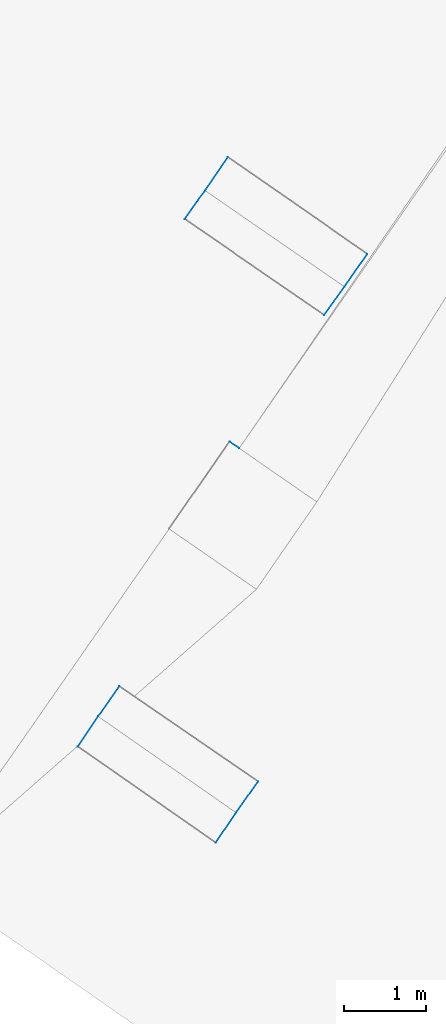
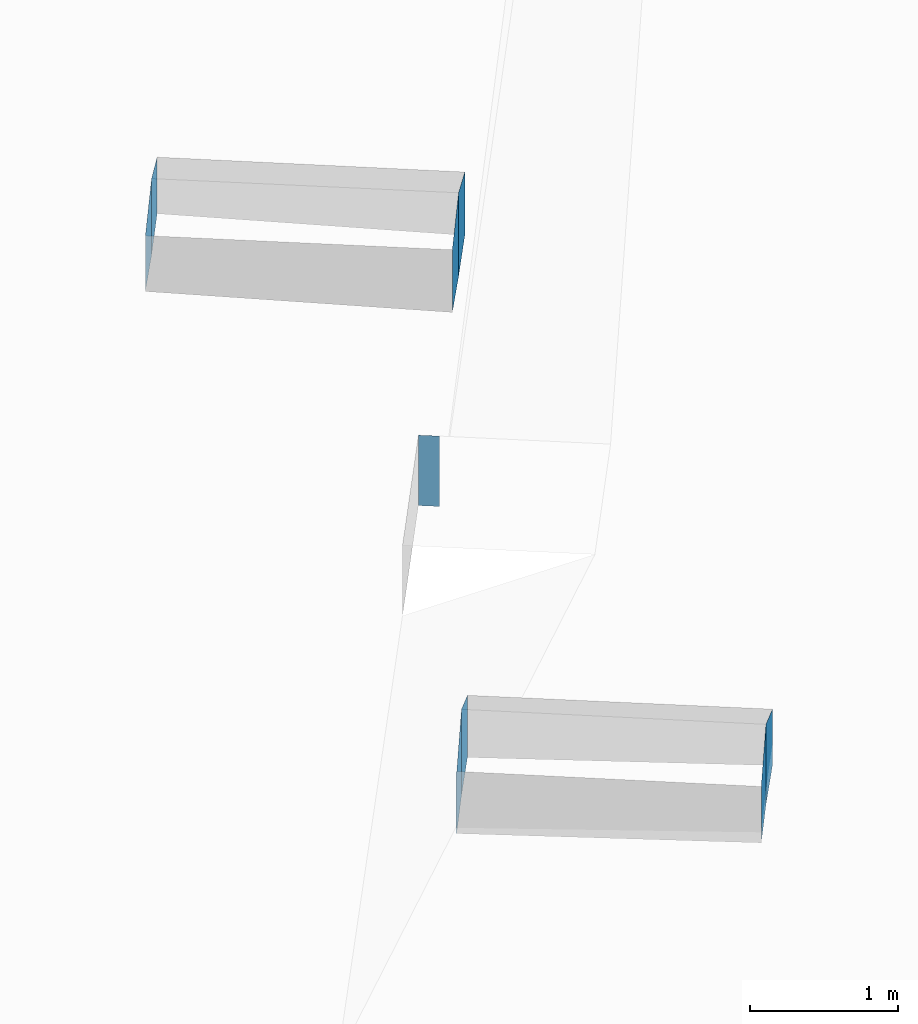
# Not in any storey, part 85 of 136: 9 walls.
"""IFC4 building model written with IfcOpenShell, lengths in metres."""

from ifc_helpers import new_model, entity, si_unit, converted_unit, origin, place, context, subcontext, project, spatial, face_set, surface_model, element, save


model = new_model("IFC4")

# Units and contexts
model_context = context("Model", 3, precision=1e-05, world=origin())
body_context = subcontext(model_context, "Body", "Model", "MODEL_VIEW")
ifc_project = project(units=[converted_unit("PLANEANGLEUNIT", "DEGREE", entity("IfcRatioMeasure", 0.0174532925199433), si_unit("PLANEANGLEUNIT", "RADIAN"), dimensions=[0, 0, 0, 0, 0, 0, 0]), si_unit("AREAUNIT", "SQUARE_METRE"), si_unit("LENGTHUNIT", "METRE")], contexts=[model_context])

# Site, building
site_placement = place(None, origin())
site = spatial("IfcSite", under=ifc_project, at=site_placement, Name="_site")
building_placement = place(site_placement, origin())
building = spatial("IfcBuilding", under=site, at=building_placement, Name="_building")

# Walls
wall_1_placement = place(building_placement, origin())
element("IfcWall", 1, at=wall_1_placement, inside=building, Name="Wall", PredefinedType="NOTDEFINED", context=body_context, shape_type="SurfaceModel", body=[
    surface_model("IfcFaceBasedSurfaceModel", [(-20.06, 43.351, 54.35), (-20.34, 42.95, 54.52), (-20.34, 42.95, 53.831), (-20.06, 43.351, 53.828)], [face_set([[[0, 1, 2, 3]]])]),
])
wall_2_placement = place(building_placement, origin())
element("IfcWall", 2, at=wall_2_placement, inside=building, Name="Wall", PredefinedType="NOTDEFINED", context=body_context, shape_type="SurfaceModel", body=[
    surface_model("IfcFaceBasedSurfaceModel", [(-21.4, 36.88, 54.32), (-21.67, 36.5, 54.52), (-21.67, 36.5, 53.856), (-21.4, 36.88, 53.856)], [face_set([[[0, 1, 2, 3]]])]),
])
wall_3_placement = place(building_placement, origin())
element("IfcWall", 3, at=wall_3_placement, inside=building, Name="Wall", PredefinedType="NOTDEFINED", context=body_context, shape_type="SurfaceModel", body=[
    surface_model("IfcFaceBasedSurfaceModel", [(-23.36, 37.68, 54.52), (-23.1, 38.05, 54.32), (-23.1, 38.05, 53.808), (-23.36, 37.68, 53.808)], [face_set([[[0, 1, 2, 3]]])]),
])
wall_4_placement = place(building_placement, origin())
element("IfcWall", 4, at=wall_4_placement, inside=building, Name="Wall", PredefinedType="NOTDEFINED", context=body_context, shape_type="SurfaceModel", body=[
    surface_model("IfcFaceBasedSurfaceModel", [(-22.05, 44.13, 54.52), (-21.77, 44.54, 54.35), (-21.77, 44.54, 53.884), (-22.05, 44.13, 53.887)], [face_set([[[0, 1, 2, 3]]])]),
])
wall_5_placement = place(building_placement, origin())
element("IfcWall", 5, at=wall_5_placement, inside=building, Name="Wall", PredefinedType="NOTDEFINED", context=body_context, shape_type="SurfaceModel", body=[
    surface_model("IfcFaceBasedSurfaceModel", [(-23.61, 37.311, 54.32), (-23.36, 37.68, 54.52), (-23.36, 37.68, 53.808), (-23.61, 37.311, 53.808)], [face_set([[[0, 1, 2, 3]]])]),
])
wall_6_placement = place(building_placement, origin())
element("IfcWall", 6, at=wall_6_placement, inside=building, Name="Wall", PredefinedType="NOTDEFINED", context=body_context, shape_type="SurfaceModel", body=[
    surface_model("IfcFaceBasedSurfaceModel", [(-21.67, 36.5, 54.52), (-21.92, 36.13, 54.32), (-21.92, 36.13, 53.856), (-21.67, 36.5, 53.856)], [face_set([[[0, 1, 2, 3]]])]),
])
wall_7_placement = place(building_placement, origin())
element("IfcWall", 7, at=wall_7_placement, inside=building, Name="Wall", PredefinedType="NOTDEFINED", context=body_context, shape_type="SurfaceModel", body=[
    surface_model("IfcFaceBasedSurfaceModel", [(-21.75, 41.05, 54.17), (-21.631, 40.969, 54.17), (-21.631, 40.969, 53.59), (-21.75, 41.05, 53.59)], [face_set([[[0, 1, 2, 3]]])]),
])
wall_8_placement = place(building_placement, origin())
element("IfcWall", 8, at=wall_8_placement, inside=building, Name="Wall", PredefinedType="NOTDEFINED", context=body_context, shape_type="SurfaceModel", body=[
    surface_model("IfcFaceBasedSurfaceModel", [(-20.34, 42.95, 54.52), (-20.59, 42.601, 54.35), (-20.59, 42.601, 53.834), (-20.34, 42.95, 53.831)], [face_set([[[0, 1, 2, 3]]])]),
])
wall_9_placement = place(building_placement, origin())
element("IfcWall", 9, at=wall_9_placement, inside=building, Name="Wall", PredefinedType="NOTDEFINED", context=body_context, shape_type="SurfaceModel", body=[
    surface_model("IfcFaceBasedSurfaceModel", [(-22.3, 43.78, 54.35), (-22.05, 44.13, 54.52), (-22.05, 44.13, 53.887), (-22.3, 43.78, 53.89)], [face_set([[[0, 1, 2, 3]]])]),
])

save(model, "model.ifc")
